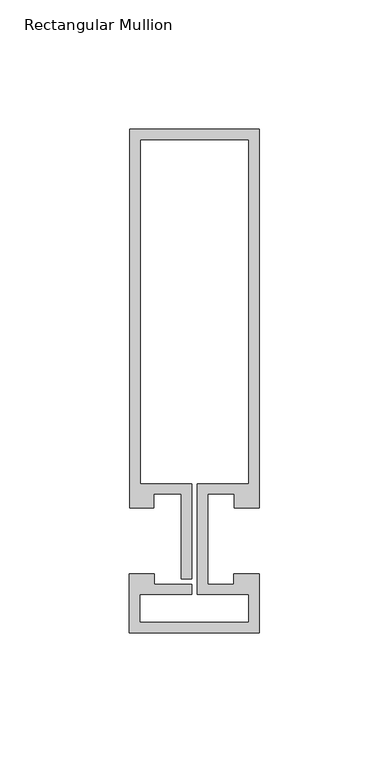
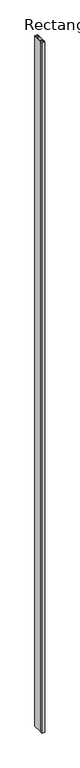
"""IFC4 building model written with IfcOpenShell, lengths in millimetres: member geometry, Rectangular Mullion : Reynaers_CW-50_Transom-Transom_146.5mm_Facecap-02C."""

from ifc_helpers import new_model, si_unit, frame, origin, place, context, project, spatial, polyline, outline, extrude, source, transform, mapped, element, save


def rectangular_mullion_afd46f44(model_context):
    return source(origin(), model_context, "Body", "SweptSolid", [
        extrude(outline(polyline([(25.1995941, -12.7331291), (25.1995941, -35.5313894), (-24.994845, -35.5313894), (-24.994845, -12.7331291), (-15.2996495, -12.7331291), (-15.2996495, -16.7331291), (-0.9004059, -16.7331291), (-0.9004059, -20.7331291), (-20.994845, -20.7331291), (-20.994845, -31.5313894), (21.1995941, -31.5313894), (21.1995941, -20.7331291), (1.2995941, -20.7331291), (1.2995941, 22.1331291), (21.1995941, 22.1331291), (21.1995941, 155.2331291), (-20.8004059, 155.2331291), (-20.8004059, 22.1331291), (-0.9004059, 22.1331291), (-0.9004059, -14.7331291), (-4.9004059, -14.7331291), (-4.9004059, 18.1331291), (-15.499, 18.1331291), (-15.499, 12.7331291), (-24.8004059, 12.7331291), (-24.8004059, 159.2331291), (25.1995941, 159.2331291), (25.1995941, 12.7331291), (15.499, 12.7331291), (15.499, 18.1331291), (5.2995941, 18.1331291), (5.2995941, -16.7331291), (15.2996495, -16.7331291), (15.2996495, -12.7331291), (25.1995941, -12.7331291)])), frame((0.0, 0.0, -12000.0), z_axis=(0.0, 0.0, 1.0), x_axis=(1.0, 0.0, 0.0)), (0.0, 0.0, 1.0), 12000.0),
    ])


if __name__ == "__main__":
    model = new_model("IFC4")
    model_context = context("Model", 3, world=origin())
    ifc_project = project(units=[si_unit("LENGTHUNIT", "METRE", prefix="MILLI")], contexts=[model_context])
    site = spatial("IfcSite", under=ifc_project)
    building = spatial("IfcBuilding", under=site)
    placement = place(None, origin())
    rectangular_mullion_shape = rectangular_mullion_afd46f44(model_context)
    element("IfcMember", 1, ObjectType="Rectangular Mullion : Reynaers_CW-50_Transom-Transom_146.5mm_Facecap-02C", at=placement, inside=building, context=model_context, shape_type="MappedRepresentation", body=[
        mapped(rectangular_mullion_shape, transform((0.0, 0.0, 0.0), x_axis=(1.0, 0.0, 0.0), y_axis=(0.0, 1.0, 0.0), z_axis=(0.0, 0.0, 1.0))),
    ])
    save(model, "model.ifc")
